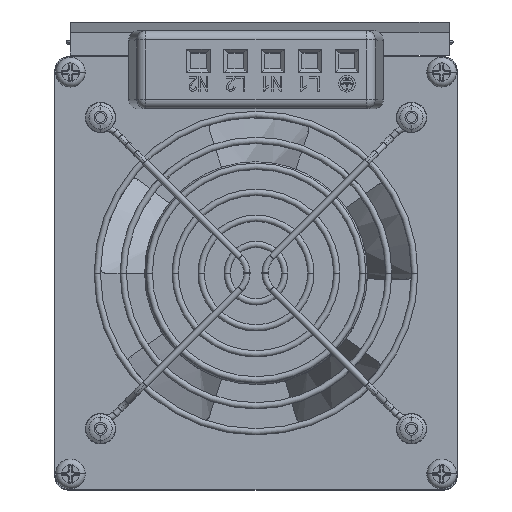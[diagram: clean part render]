
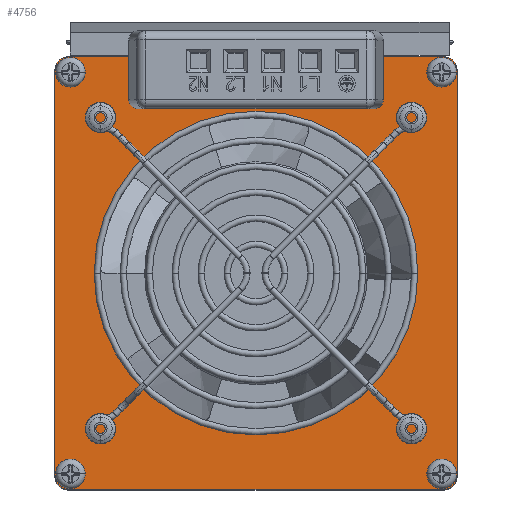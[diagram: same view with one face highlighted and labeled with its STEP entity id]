
A CAD part, top view. The second image highlights one B-rep face of the part: STEP entity #4756.
In plain terms, the highlighted planar face has unit normal (0, 0, 1).
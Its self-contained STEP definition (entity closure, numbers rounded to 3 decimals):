
#197 = VERTEX_POINT ( 'NONE', #38723 ) ;
#262 = CARTESIAN_POINT ( 'NONE',  ( -50.65, 54.75, 0. ) ) ;
#864 = EDGE_LOOP ( 'NONE', ( #18963, #26474, #8548, #20980, #32984, #2179, #13737, #41205 ) ) ;
#876 = CIRCLE ( 'NONE', #9138, 43. ) ;
#1033 = LINE ( 'NONE', #14188, #41218 ) ;
#1208 = DIRECTION ( 'NONE',  ( 0., -1., 0. ) ) ;
#1542 = ORIENTED_EDGE ( 'NONE', *, *, #28636, .F. ) ;
#2027 = ORIENTED_EDGE ( 'NONE', *, *, #22148, .F. ) ;
#2099 = CARTESIAN_POINT ( 'NONE',  ( -50.65, -58.25, 0. ) ) ;
#2179 = ORIENTED_EDGE ( 'NONE', *, *, #41169, .F. ) ;
#3837 = VECTOR ( 'NONE', #1208, 1000. ) ;
#4756 = ADVANCED_FACE ( 'NONE', ( #27573, #11151 ), #8685, .T. ) ;
#5178 = EDGE_CURVE ( 'NONE', #13373, #30042, #29496, .T. ) ;
#5301 = DIRECTION ( 'NONE',  ( 1., 0., 0. ) ) ;
#5887 = VERTEX_POINT ( 'NONE', #15660 ) ;
#6186 = DIRECTION ( 'NONE',  ( 1., 0., 0. ) ) ;
#7996 = AXIS2_PLACEMENT_3D ( 'NONE', #29915, #16744, #23454 ) ;
#8548 = ORIENTED_EDGE ( 'NONE', *, *, #17712, .F. ) ;
#8685 = PLANE ( 'NONE',  #30822 ) ;
#9138 = AXIS2_PLACEMENT_3D ( 'NONE', #39619, #9842, #6186 ) ;
#9842 = DIRECTION ( 'NONE',  ( 0., 0., 1. ) ) ;
#10039 = VERTEX_POINT ( 'NONE', #18829 ) ;
#10066 = VERTEX_POINT ( 'NONE', #23134 ) ;
#10912 = CIRCLE ( 'NONE', #35029, 3.5 ) ;
#11151 = FACE_BOUND ( 'NONE', #17337, .T. ) ;
#11259 = EDGE_CURVE ( 'NONE', #10039, #10066, #10912, .T. ) ;
#11940 = CARTESIAN_POINT ( 'NONE',  ( 50.65, 58.25, 0. ) ) ;
#11956 = EDGE_CURVE ( 'NONE', #21871, #17884, #14445, .T. ) ;
#13373 = VERTEX_POINT ( 'NONE', #2099 ) ;
#13737 = ORIENTED_EDGE ( 'NONE', *, *, #17057, .F. ) ;
#13971 = CARTESIAN_POINT ( 'NONE',  ( 43., 0., 0. ) ) ;
#14188 = CARTESIAN_POINT ( 'NONE',  ( -54.15, 54.75, 0. ) ) ;
#14347 = VECTOR ( 'NONE', #17674, 1000. ) ;
#14445 = CIRCLE ( 'NONE', #41977, 3.5 ) ;
#15470 = EDGE_CURVE ( 'NONE', #30042, #10039, #1033, .T. ) ;
#15660 = CARTESIAN_POINT ( 'NONE',  ( 54.15, 54.75, 0. ) ) ;
#16744 = DIRECTION ( 'NONE',  ( 0., 0., -1. ) ) ;
#16955 = CARTESIAN_POINT ( 'NONE',  ( 50.65, -54.75, 0. ) ) ;
#17057 = EDGE_CURVE ( 'NONE', #10066, #37458, #34844, .T. ) ;
#17203 = LINE ( 'NONE', #33807, #3837 ) ;
#17337 = EDGE_LOOP ( 'NONE', ( #1542, #2027 ) ) ;
#17674 = DIRECTION ( 'NONE',  ( -1., 0., 0. ) ) ;
#17684 = DIRECTION ( 'NONE',  ( 1., 0., 0. ) ) ;
#17712 = EDGE_CURVE ( 'NONE', #17884, #13373, #31260, .T. ) ;
#17884 = VERTEX_POINT ( 'NONE', #38350 ) ;
#18829 = CARTESIAN_POINT ( 'NONE',  ( -54.15, 54.75, 0. ) ) ;
#18963 = ORIENTED_EDGE ( 'NONE', *, *, #15470, .F. ) ;
#19593 = CARTESIAN_POINT ( 'NONE',  ( 54.15, -54.75, 0. ) ) ;
#20980 = ORIENTED_EDGE ( 'NONE', *, *, #11956, .F. ) ;
#21871 = VERTEX_POINT ( 'NONE', #19593 ) ;
#22148 = EDGE_CURVE ( 'NONE', #36985, #197, #41776, .T. ) ;
#22174 = DIRECTION ( 'NONE',  ( 0., 1., 0. ) ) ;
#23134 = CARTESIAN_POINT ( 'NONE',  ( -50.65, 58.25, 0. ) ) ;
#23454 = DIRECTION ( 'NONE',  ( 1., 0., 0. ) ) ;
#23956 = DIRECTION ( 'NONE',  ( 0., 0., -1. ) ) ;
#24070 = VECTOR ( 'NONE', #31631, 1000. ) ;
#24961 = CARTESIAN_POINT ( 'NONE',  ( 0., 0., 0. ) ) ;
#26474 = ORIENTED_EDGE ( 'NONE', *, *, #5178, .F. ) ;
#27573 = FACE_OUTER_BOUND ( 'NONE', #864, .T. ) ;
#28636 = EDGE_CURVE ( 'NONE', #197, #36985, #876, .T. ) ;
#29092 = CARTESIAN_POINT ( 'NONE',  ( -54.15, -54.75, 0. ) ) ;
#29496 = CIRCLE ( 'NONE', #41849, 3.5 ) ;
#29915 = CARTESIAN_POINT ( 'NONE',  ( 50.65, 54.75, 0. ) ) ;
#30042 = VERTEX_POINT ( 'NONE', #29092 ) ;
#30822 = AXIS2_PLACEMENT_3D ( 'NONE', #262, #39102, #32435 ) ;
#31260 = LINE ( 'NONE', #34695, #14347 ) ;
#31631 = DIRECTION ( 'NONE',  ( 1., 0., 0. ) ) ;
#32435 = DIRECTION ( 'NONE',  ( 1., 0., 0. ) ) ;
#32984 = ORIENTED_EDGE ( 'NONE', *, *, #33525, .F. ) ;
#33525 = EDGE_CURVE ( 'NONE', #5887, #21871, #17203, .T. ) ;
#33807 = CARTESIAN_POINT ( 'NONE',  ( 54.15, 54.75, 0. ) ) ;
#34695 = CARTESIAN_POINT ( 'NONE',  ( -50.65, -58.25, 0. ) ) ;
#34844 = LINE ( 'NONE', #38717, #24070 ) ;
#34866 = DIRECTION ( 'NONE',  ( 0., 0., 1. ) ) ;
#35029 = AXIS2_PLACEMENT_3D ( 'NONE', #42569, #36740, #39119 ) ;
#36740 = DIRECTION ( 'NONE',  ( 0., 0., -1. ) ) ;
#36879 = CARTESIAN_POINT ( 'NONE',  ( -50.65, -54.75, 0. ) ) ;
#36985 = VERTEX_POINT ( 'NONE', #13971 ) ;
#37458 = VERTEX_POINT ( 'NONE', #11940 ) ;
#38315 = CIRCLE ( 'NONE', #7996, 3.5 ) ;
#38350 = CARTESIAN_POINT ( 'NONE',  ( 50.65, -58.25, 0. ) ) ;
#38717 = CARTESIAN_POINT ( 'NONE',  ( -50.65, 58.25, 0. ) ) ;
#38723 = CARTESIAN_POINT ( 'NONE',  ( -43., 0., 0. ) ) ;
#39102 = DIRECTION ( 'NONE',  ( 0., 0., 1. ) ) ;
#39119 = DIRECTION ( 'NONE',  ( 1., 0., 0. ) ) ;
#39619 = CARTESIAN_POINT ( 'NONE',  ( 0., 0., 0. ) ) ;
#40040 = DIRECTION ( 'NONE',  ( 1., 0., 0. ) ) ;
#41116 = AXIS2_PLACEMENT_3D ( 'NONE', #24961, #34866, #5301 ) ;
#41169 = EDGE_CURVE ( 'NONE', #37458, #5887, #38315, .T. ) ;
#41205 = ORIENTED_EDGE ( 'NONE', *, *, #11259, .F. ) ;
#41218 = VECTOR ( 'NONE', #22174, 1000. ) ;
#41776 = CIRCLE ( 'NONE', #41116, 43. ) ;
#41849 = AXIS2_PLACEMENT_3D ( 'NONE', #36879, #23956, #17684 ) ;
#41977 = AXIS2_PLACEMENT_3D ( 'NONE', #16955, #42395, #40040 ) ;
#42395 = DIRECTION ( 'NONE',  ( 0., 0., -1. ) ) ;
#42569 = CARTESIAN_POINT ( 'NONE',  ( -50.65, 54.75, 0. ) ) ;
